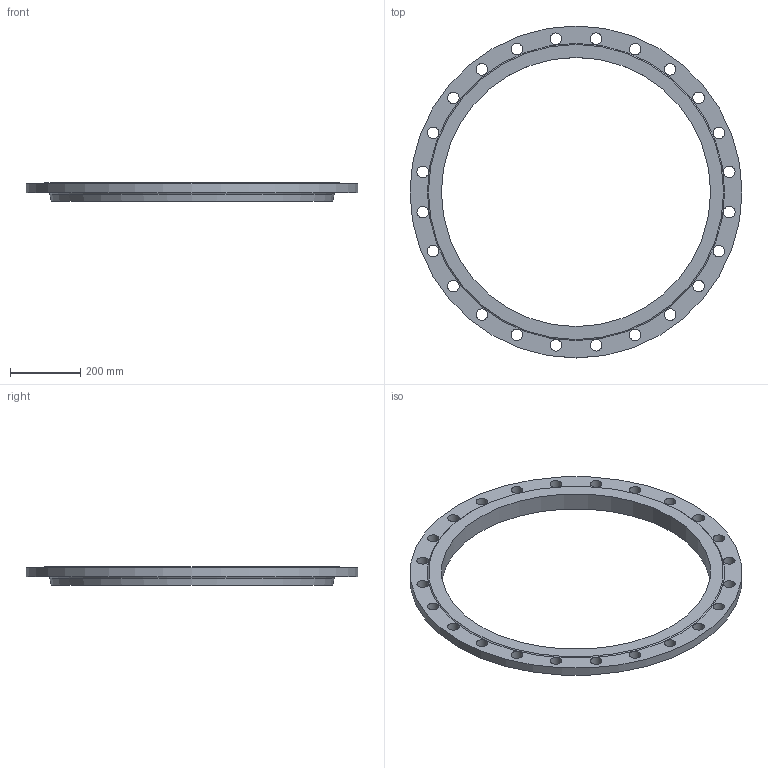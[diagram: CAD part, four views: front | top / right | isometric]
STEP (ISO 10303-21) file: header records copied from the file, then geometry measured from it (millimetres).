
FILE_DESCRIPTION(/* description */ (''),/* implementation_level */ '2;1');
FILE_NAME(/* name */ 'C:\Users\D\Documents\Inventor\HP\JIS\フランジ\JIS 5k soh rf\jis5k-soh-rf-750.stp',/* time_stamp */ '2024-08-29T14:25:59+09:00',/* author */ ('D'),/* organization */ (''),/* preprocessor_version */ 'ST-DEVELOPER v18',/* originating_system */ 'Autodesk Inventor 2020',/* authorisation */ '');
FILE_SCHEMA (('AUTOMOTIVE_DESIGN { 1 0 10303 214 3 1 1 }'));
Length unit declared in the file: millimetre
Products named in the file (1): jis5k-soh-ff-450
Bounding box: 945 x 945 x 52 mm (x, y, z)
Volume: 6980081.5 mm3; surface area: 753931.7 mm2
Topology: 1 solids, 1 shells, 33 faces, 95 edges, 66 vertices
Faces by surface type: cylinder 26, plane 4, torus 2, cone 1
Full cylindrical faces by diameter (mm): 33 x24, 766 x1, 945 x1
Entity records: 1282 total; most frequent: DIRECTION 231, CARTESIAN_POINT 195, ORIENTED_EDGE 190, AXIS2_PLACEMENT_3D 102, EDGE_CURVE 95, EDGE_LOOP 85, CIRCLE 68, VERTEX_POINT 66
